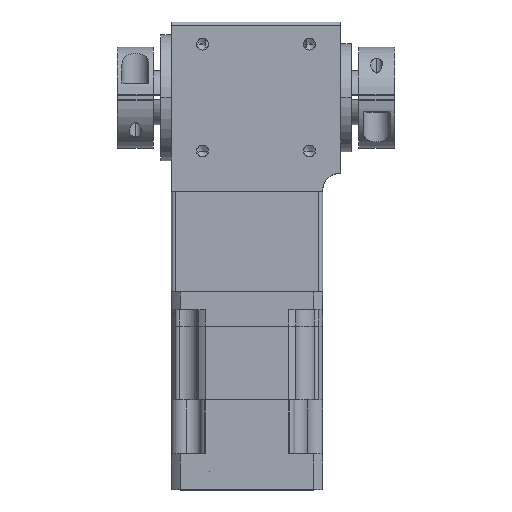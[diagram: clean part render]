
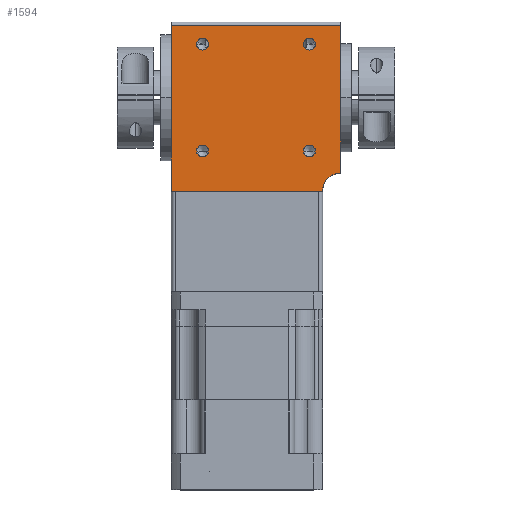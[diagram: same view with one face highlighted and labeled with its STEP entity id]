
A CAD part, top view. The second image highlights one B-rep face of the part: STEP entity #1594.
In plain terms, the highlighted planar face has unit normal (0, 0, 1).
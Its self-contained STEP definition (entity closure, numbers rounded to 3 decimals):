
#156 = CARTESIAN_POINT ( 'NONE',  ( 11.651, -12.349, 21. ) ) ;
#593 = AXIS2_PLACEMENT_3D ( 'NONE', #25689, #7625, #28737 ) ;
#1036 = DIRECTION ( 'NONE',  ( 1., 0., 0. ) ) ;
#1501 = DIRECTION ( 'NONE',  ( 1., 0., 0. ) ) ;
#1594 = ADVANCED_FACE ( 'NONE', ( #7993, #24967, #16076, #39025, #31049 ), #15721, .F. ) ;
#2496 = VERTEX_POINT ( 'NONE', #31151 ) ;
#2528 = AXIS2_PLACEMENT_3D ( 'NONE', #156, #21315, #3175 ) ;
#2911 = VERTEX_POINT ( 'NONE', #28857 ) ;
#3175 = DIRECTION ( 'NONE',  ( 1., 0., 0. ) ) ;
#3943 = ORIENTED_EDGE ( 'NONE', *, *, #5030, .F. ) ;
#4259 = AXIS2_PLACEMENT_3D ( 'NONE', #13285, #34239, #16355 ) ;
#4281 = AXIS2_PLACEMENT_3D ( 'NONE', #37502, #19611, #1501 ) ;
#5030 = EDGE_CURVE ( 'NONE', #9010, #36441, #11123, .T. ) ;
#5336 = ORIENTED_EDGE ( 'NONE', *, *, #20438, .T. ) ;
#5493 = CARTESIAN_POINT ( 'NONE',  ( 3., -23.5, 21. ) ) ;
#5539 = EDGE_CURVE ( 'NONE', #2911, #21730, #38798, .T. ) ;
#5771 = AXIS2_PLACEMENT_3D ( 'NONE', #37038, #19133, #1036 ) ;
#5775 = CIRCLE ( 'NONE', #4281, 1.65 ) ;
#5819 = AXIS2_PLACEMENT_3D ( 'NONE', #29071, #11047, #32044 ) ;
#6840 = AXIS2_PLACEMENT_3D ( 'NONE', #34776, #16868, #37805 ) ;
#6955 = DIRECTION ( 'NONE',  ( 0., 0., 1. ) ) ;
#7351 = EDGE_CURVE ( 'NONE', #22609, #36217, #15278, .T. ) ;
#7625 = DIRECTION ( 'NONE',  ( 0., 0., 1. ) ) ;
#7993 = FACE_BOUND ( 'NONE', #36859, .T. ) ;
#8881 = LINE ( 'NONE', #31646, #15082 ) ;
#9010 = VERTEX_POINT ( 'NONE', #19993 ) ;
#9308 = VERTEX_POINT ( 'NONE', #27213 ) ;
#9358 = CARTESIAN_POINT ( 'NONE',  ( 39.699, 17.349, 21. ) ) ;
#9398 = VECTOR ( 'NONE', #38758, 1000. ) ;
#9875 = VERTEX_POINT ( 'NONE', #9358 ) ;
#10446 = AXIS2_PLACEMENT_3D ( 'NONE', #12431, #33408, #15506 ) ;
#10921 = CARTESIAN_POINT ( 'NONE',  ( 42.999, 17.349, 21. ) ) ;
#11047 = DIRECTION ( 'NONE',  ( 0., 0., 1. ) ) ;
#11123 = CIRCLE ( 'NONE', #5771, 5. ) ;
#11126 = EDGE_LOOP ( 'NONE', ( #21225, #5336, #22938, #23531, #3943 ) ) ;
#11364 = EDGE_LOOP ( 'NONE', ( #14906, #38086 ) ) ;
#11632 = VERTEX_POINT ( 'NONE', #30895 ) ;
#11767 = ORIENTED_EDGE ( 'NONE', *, *, #20739, .F. ) ;
#11984 = ORIENTED_EDGE ( 'NONE', *, *, #5539, .F. ) ;
#12146 = LINE ( 'NONE', #35146, #19260 ) ;
#12431 = CARTESIAN_POINT ( 'NONE',  ( 41.349, -12.349, 21. ) ) ;
#12989 = EDGE_LOOP ( 'NONE', ( #37231, #11984 ) ) ;
#13030 = CIRCLE ( 'NONE', #6840, 1.65 ) ;
#13285 = CARTESIAN_POINT ( 'NONE',  ( 11.651, -12.349, 21. ) ) ;
#13294 = DIRECTION ( 'NONE',  ( -1., 0., 0. ) ) ;
#13542 = DIRECTION ( 'NONE',  ( 0., 0., -1. ) ) ;
#14005 = CIRCLE ( 'NONE', #5819, 1.65 ) ;
#14792 = CARTESIAN_POINT ( 'NONE',  ( 53., -23.5, 21. ) ) ;
#14906 = ORIENTED_EDGE ( 'NONE', *, *, #22793, .F. ) ;
#15082 = VECTOR ( 'NONE', #16616, 1000. ) ;
#15278 = CIRCLE ( 'NONE', #10446, 1.65 ) ;
#15506 = DIRECTION ( 'NONE',  ( 1., 0., 0. ) ) ;
#15721 = PLANE ( 'NONE',  #37320 ) ;
#16076 = FACE_BOUND ( 'NONE', #12989, .T. ) ;
#16113 = CARTESIAN_POINT ( 'NONE',  ( 53., -23.5, 21. ) ) ;
#16355 = DIRECTION ( 'NONE',  ( 1., 0., 0. ) ) ;
#16374 = CIRCLE ( 'NONE', #2528, 1.65 ) ;
#16537 = LINE ( 'NONE', #14792, #9398 ) ;
#16616 = DIRECTION ( 'NONE',  ( 0., -1., 0. ) ) ;
#16868 = DIRECTION ( 'NONE',  ( 0., 0., 1. ) ) ;
#17688 = CARTESIAN_POINT ( 'NONE',  ( 42.999, -12.349, 21. ) ) ;
#17876 = ORIENTED_EDGE ( 'NONE', *, *, #37825, .F. ) ;
#18587 = CARTESIAN_POINT ( 'NONE',  ( 39.699, -12.349, 21. ) ) ;
#18789 = EDGE_CURVE ( 'NONE', #21730, #2911, #16374, .T. ) ;
#19133 = DIRECTION ( 'NONE',  ( 0., 0., 1. ) ) ;
#19260 = VECTOR ( 'NONE', #38172, 1000. ) ;
#19596 = EDGE_CURVE ( 'NONE', #2496, #9010, #8881, .T. ) ;
#19611 = DIRECTION ( 'NONE',  ( 0., 0., 1. ) ) ;
#19993 = CARTESIAN_POINT ( 'NONE',  ( 50., -18.5, 21. ) ) ;
#20438 = EDGE_CURVE ( 'NONE', #2496, #24786, #12146, .T. ) ;
#20739 = EDGE_CURVE ( 'NONE', #21678, #9875, #28639, .T. ) ;
#21225 = ORIENTED_EDGE ( 'NONE', *, *, #19596, .F. ) ;
#21315 = DIRECTION ( 'NONE',  ( 0., 0., 1. ) ) ;
#21678 = VERTEX_POINT ( 'NONE', #10921 ) ;
#21695 = EDGE_CURVE ( 'NONE', #25583, #9308, #14005, .T. ) ;
#21730 = VERTEX_POINT ( 'NONE', #32168 ) ;
#22609 = VERTEX_POINT ( 'NONE', #18587 ) ;
#22793 = EDGE_CURVE ( 'NONE', #36217, #22609, #13030, .T. ) ;
#22938 = ORIENTED_EDGE ( 'NONE', *, *, #23748, .F. ) ;
#23531 = ORIENTED_EDGE ( 'NONE', *, *, #33175, .F. ) ;
#23571 = EDGE_CURVE ( 'NONE', #9308, #25583, #35996, .T. ) ;
#23748 = EDGE_CURVE ( 'NONE', #11632, #24786, #34090, .T. ) ;
#23875 = CARTESIAN_POINT ( 'NONE',  ( 3., 22.5, 21. ) ) ;
#24786 = VERTEX_POINT ( 'NONE', #23875 ) ;
#24967 = FACE_BOUND ( 'NONE', #11364, .T. ) ;
#25049 = CARTESIAN_POINT ( 'NONE',  ( 41.349, 17.349, 21. ) ) ;
#25232 = VECTOR ( 'NONE', #38636, 1000. ) ;
#25583 = VERTEX_POINT ( 'NONE', #31759 ) ;
#25689 = CARTESIAN_POINT ( 'NONE',  ( 11.651, 17.349, 21. ) ) ;
#27213 = CARTESIAN_POINT ( 'NONE',  ( 13.301, 17.349, 21. ) ) ;
#28067 = DIRECTION ( 'NONE',  ( 1., 0., 0. ) ) ;
#28639 = CIRCLE ( 'NONE', #31030, 1.65 ) ;
#28737 = DIRECTION ( 'NONE',  ( 1., 0., 0. ) ) ;
#28857 = CARTESIAN_POINT ( 'NONE',  ( 10.001, -12.349, 21. ) ) ;
#29071 = CARTESIAN_POINT ( 'NONE',  ( 11.651, 17.349, 21. ) ) ;
#30059 = ORIENTED_EDGE ( 'NONE', *, *, #23571, .F. ) ;
#30839 = EDGE_LOOP ( 'NONE', ( #30059, #37233 ) ) ;
#30894 = CARTESIAN_POINT ( 'NONE',  ( 45., -23.5, 21. ) ) ;
#30895 = CARTESIAN_POINT ( 'NONE',  ( 3., -23.5, 21. ) ) ;
#31030 = AXIS2_PLACEMENT_3D ( 'NONE', #25049, #6955, #28067 ) ;
#31049 = FACE_OUTER_BOUND ( 'NONE', #11126, .T. ) ;
#31151 = CARTESIAN_POINT ( 'NONE',  ( 50., 22.5, 21. ) ) ;
#31646 = CARTESIAN_POINT ( 'NONE',  ( 50., -23.5, 21. ) ) ;
#31759 = CARTESIAN_POINT ( 'NONE',  ( 10.001, 17.349, 21. ) ) ;
#32044 = DIRECTION ( 'NONE',  ( 1., 0., 0. ) ) ;
#32168 = CARTESIAN_POINT ( 'NONE',  ( 13.301, -12.349, 21. ) ) ;
#33175 = EDGE_CURVE ( 'NONE', #36441, #11632, #16537, .T. ) ;
#33408 = DIRECTION ( 'NONE',  ( 0., 0., 1. ) ) ;
#34090 = LINE ( 'NONE', #5493, #25232 ) ;
#34239 = DIRECTION ( 'NONE',  ( 0., 0., 1. ) ) ;
#34776 = CARTESIAN_POINT ( 'NONE',  ( 41.349, -12.349, 21. ) ) ;
#35146 = CARTESIAN_POINT ( 'NONE',  ( 53., 22.5, 21. ) ) ;
#35996 = CIRCLE ( 'NONE', #593, 1.65 ) ;
#36217 = VERTEX_POINT ( 'NONE', #17688 ) ;
#36441 = VERTEX_POINT ( 'NONE', #30894 ) ;
#36859 = EDGE_LOOP ( 'NONE', ( #11767, #17876 ) ) ;
#37038 = CARTESIAN_POINT ( 'NONE',  ( 50., -23.5, 21. ) ) ;
#37231 = ORIENTED_EDGE ( 'NONE', *, *, #18789, .F. ) ;
#37233 = ORIENTED_EDGE ( 'NONE', *, *, #21695, .F. ) ;
#37320 = AXIS2_PLACEMENT_3D ( 'NONE', #16113, #13542, #13294 ) ;
#37502 = CARTESIAN_POINT ( 'NONE',  ( 41.349, 17.349, 21. ) ) ;
#37805 = DIRECTION ( 'NONE',  ( 1., 0., 0. ) ) ;
#37825 = EDGE_CURVE ( 'NONE', #9875, #21678, #5775, .T. ) ;
#38086 = ORIENTED_EDGE ( 'NONE', *, *, #7351, .F. ) ;
#38172 = DIRECTION ( 'NONE',  ( -1., 0., 0. ) ) ;
#38636 = DIRECTION ( 'NONE',  ( 0., 1., 0. ) ) ;
#38758 = DIRECTION ( 'NONE',  ( -1., 0., 0. ) ) ;
#38798 = CIRCLE ( 'NONE', #4259, 1.65 ) ;
#39025 = FACE_BOUND ( 'NONE', #30839, .T. ) ;
